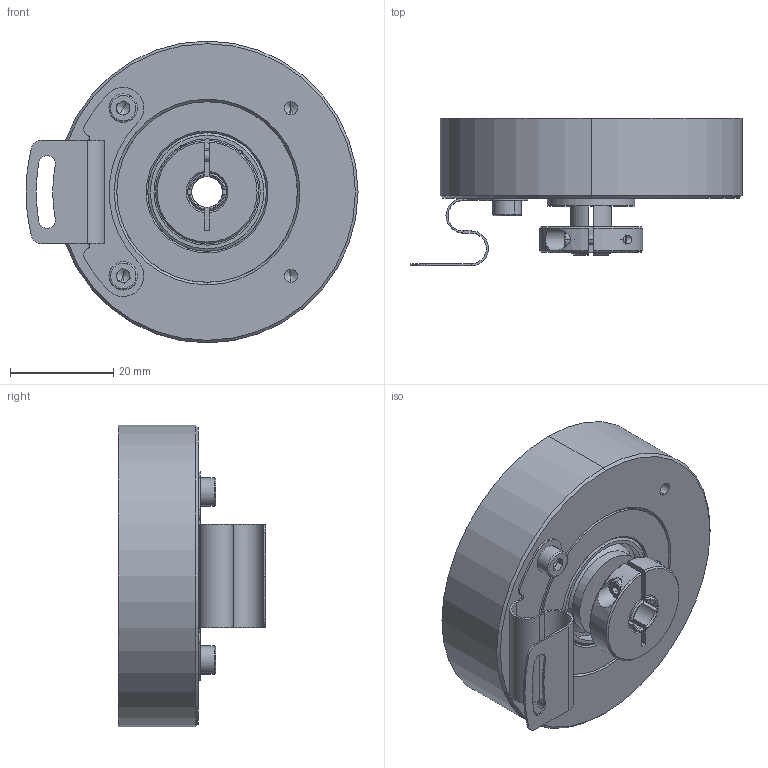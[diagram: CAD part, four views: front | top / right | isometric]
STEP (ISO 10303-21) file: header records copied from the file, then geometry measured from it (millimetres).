
FILE_DESCRIPTION (( 'STEP AP214' ), '1' );
FILE_NAME ('drawing-ucd-h6ts-q5b-n.STEP', '2017-02-07T09:25:38', ( '' ), ( '' ), 'SwSTEP 2.0', 'SolidWorks 2015', '' );
FILE_SCHEMA (( 'AUTOMOTIVE_DESIGN' ));
Length unit declared in the file: millimetre
Products named in the file (1): drawing-ucd-h6ts-q5b-n
Bounding box: 64.35 x 28.6 x 58.5 mm (x, y, z)
Volume: 39686.2 mm3; surface area: 24484 mm2
Topology: 26 solids, 26 shells, 591 faces, 1439 edges, 879 vertices
Faces by surface type: plane 220, bspline 146, cylinder 128, cone 85, torus 12
Entity records: 29624 total; most frequent: CARTESIAN_POINT 9844, ORIENTED_EDGE 2758, DIRECTION 2488, EDGE_CURVE 1379, AXIS2_PLACEMENT_3D 893, VERTEX_POINT 879, VECTOR 702, LINE 702
